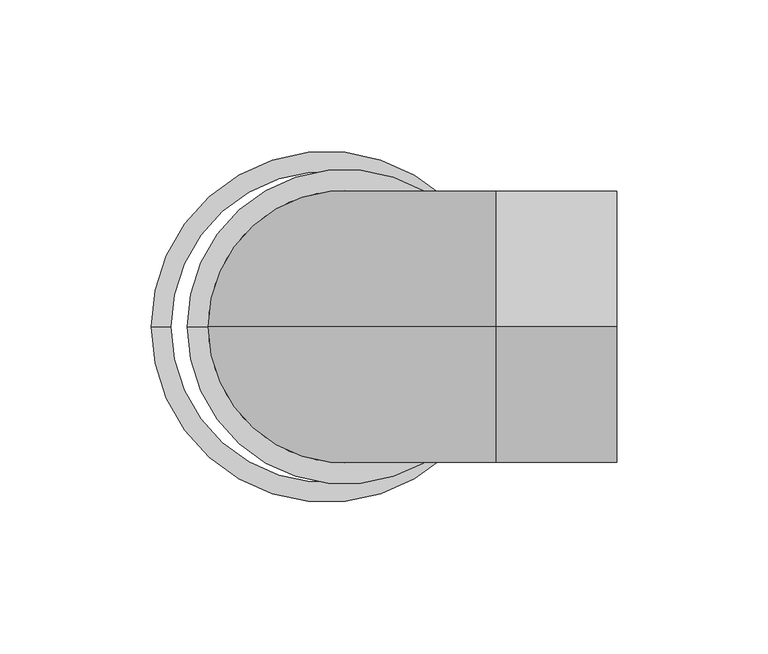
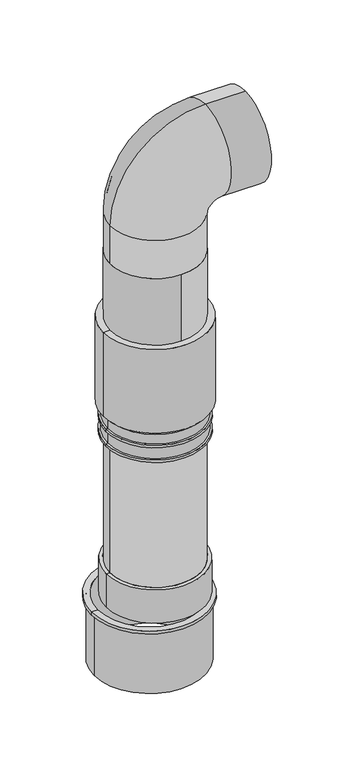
"""IFC4 building model written with IfcOpenShell, lengths in millimetres: sanitary terminal geometry, RSen_52_PIF_UN_drain set flexifon built in_wisa : drain set_wisa_flexifon built in."""

from ifc_helpers import new_model, si_unit, point, frame, origin, origin_2d, place, context, project, spatial, polyline, circle_curve, ellipse_curve, trimmed, segment, composite_curve, outline, extrude, source, transform, mapped, element, save
from ifc_brep_helpers import plane_surface, cylinder_surface, revolved_surface, advanced_brep


def sanitary_terminal_ef04253a(model_context):
    return source(origin(), model_context, "Body", "SolidModel", [
        advanced_brep(
        [(45.0, 0.0, 428.8862124), (-45.0, 0.0, 428.8862124), (43.0, 0.0, 428.8862124), (-43.0, 0.0, 428.8862124), (45.0, 0.0, 468.8862124), (-45.0, 0.0, 468.8862124), (43.0, 0.0, 468.8862124), (-43.0, 0.0, 468.8862124), (50.0, 0.0, 563.8862124), (50.0, 0.0, 473.8862124), (50.0, 0.0, 561.8862124), (50.0, 0.0, 475.8862124), (90.0, 0.0, 473.8862124), (90.0, 0.0, 563.8862124), (90.0, 0.0, 475.8862124), (90.0, 0.0, 561.8862124)],
        [
            (0, 1, circle_curve(frame((0.0, 0.0, 428.8862124), z_axis=(0.0, 0.0, -1.0), x_axis=(-1.0, 0.0, 0.0)), 45.0)),
            (1, 0, circle_curve(frame((0.0, 0.0, 428.8862124), z_axis=(0.0, 0.0, -1.0), x_axis=(-1.0, 0.0, 0.0)), 45.0)),
            (2, 3, circle_curve(frame((0.0, 0.0, 428.8862124), z_axis=(0.0, 0.0, 1.0), x_axis=(-1.0, 0.0, 0.0)), 43.0)),
            (3, 2, circle_curve(frame((0.0, 0.0, 428.8862124), z_axis=(0.0, 0.0, 1.0), x_axis=(-1.0, 0.0, 0.0)), 43.0)),
            (0, 4),
            (4, 5, circle_curve(frame((0.0, 0.0, 468.8862124), z_axis=(0.0, 0.0, -1.0), x_axis=(-1.0, 0.0, 0.0)), 45.0)),
            (5, 1),
            (5, 4, circle_curve(frame((0.0, 0.0, 468.8862124), z_axis=(0.0, 0.0, -1.0), x_axis=(-1.0, 0.0, 0.0)), 45.0)),
            (2, 6),
            (6, 7, circle_curve(frame((0.0, 0.0, 468.8862124), z_axis=(0.0, 0.0, 1.0), x_axis=(-1.0, 0.0, 0.0)), 43.0)),
            (7, 3),
            (7, 6, circle_curve(frame((0.0, 0.0, 468.8862124), z_axis=(0.0, 0.0, 1.0), x_axis=(-1.0, 0.0, 0.0)), 43.0)),
            (8, 5, circle_curve(frame((50.0, 0.0, 468.8862124), z_axis=(0.0, -1.0, 0.0), x_axis=(-1.0, 0.0, 0.0)), 95.0)),
            (4, 9, circle_curve(frame((50.0, 0.0, 468.8862124), z_axis=(0.0, 1.0, 0.0), x_axis=(-1.0, 0.0, 0.0)), 5.0)),
            (9, 8, circle_curve(frame((50.0, 0.0, 518.8862124), z_axis=(-1.0, 0.0, 0.0), x_axis=(0.0, 0.0, 1.0)), 45.0)),
            (8, 9, circle_curve(frame((50.0, 0.0, 518.8862124), z_axis=(-1.0, 0.0, 0.0), x_axis=(0.0, 0.0, 1.0)), 45.0)),
            (10, 7, circle_curve(frame((50.0, 0.0, 468.8862124), z_axis=(0.0, -1.0, 0.0), x_axis=(-1.0, 0.0, 0.0)), 93.0)),
            (6, 11, circle_curve(frame((50.0, 0.0, 468.8862124), z_axis=(0.0, 1.0, 0.0), x_axis=(-1.0, 0.0, 0.0)), 7.0)),
            (11, 10, circle_curve(frame((50.0, 0.0, 518.8862124), z_axis=(1.0, 0.0, 0.0), x_axis=(0.0, 0.0, 1.0)), 43.0)),
            (10, 11, circle_curve(frame((50.0, 0.0, 518.8862124), z_axis=(1.0, 0.0, 0.0), x_axis=(0.0, 0.0, 1.0)), 43.0)),
            (12, 13, circle_curve(frame((90.0, 0.0, 518.8862124), z_axis=(1.0, 0.0, 0.0), x_axis=(0.0, 0.0, 1.0)), 45.0)),
            (13, 12, circle_curve(frame((90.0, 0.0, 518.8862124), z_axis=(1.0, 0.0, 0.0), x_axis=(0.0, 0.0, 1.0)), 45.0)),
            (14, 15, circle_curve(frame((90.0, 0.0, 518.8862124), z_axis=(-1.0, 0.0, 0.0), x_axis=(0.0, 0.0, 1.0)), 43.0)),
            (15, 14, circle_curve(frame((90.0, 0.0, 518.8862124), z_axis=(-1.0, 0.0, 0.0), x_axis=(0.0, 0.0, 1.0)), 43.0)),
            (9, 12),
            (13, 8),
            (11, 14),
            (15, 10),
        ],
        [
            plane_surface(frame((0.0, 0.0, 428.8862124), z_axis=(0.0, 0.0, -1.0), x_axis=(0.0, -1.0, 0.0))),
            cylinder_surface(frame((0.0, 0.0, 428.8862124), z_axis=(0.0, 0.0, -1.0), x_axis=(-1.0, 0.0, 0.0)), 45.0),
            revolved_surface(polyline([(-43.0, 0.0, 468.8862124), (-43.0, 0.0, 428.8862124)]), (0.0, 0.0, 428.8862124), (0.0, 0.0, 1.0)),
            revolved_surface(trimmed(ellipse_curve(frame((0.0, 0.0, 468.8862124), z_axis=(0.0, 0.0, -1.0), x_axis=(-1.0, 0.0, 0.0)), 45.0, 45.0), [point((45.0, 0.0, 468.8862124))], [point((-45.0, 0.0, 468.8862124))], True, "CARTESIAN"), (50.0, 0.0, 468.8862124), (0.0, 1.0, 0.0)),
            revolved_surface(trimmed(ellipse_curve(frame((0.0, 0.0, 468.8862124), z_axis=(0.0, 0.0, -1.0), x_axis=(-1.0, 0.0, 0.0)), 45.0, 45.0), [point((-45.0, 0.0, 468.8862124))], [point((45.0, 0.0, 468.8862124))], True, "CARTESIAN"), (50.0, 0.0, 468.8862124), (0.0, 1.0, 0.0)),
            revolved_surface(trimmed(ellipse_curve(frame((0.0, 0.0, 468.8862124), z_axis=(0.0, 0.0, 1.0), x_axis=(-1.0, 0.0, 0.0)), 43.0, 43.0), [point((43.0, 0.0, 468.8862124))], [point((-43.0, 0.0, 468.8862124))], True, "CARTESIAN"), (50.0, 0.0, 468.8862124), (0.0, 1.0, 0.0)),
            revolved_surface(trimmed(ellipse_curve(frame((0.0, 0.0, 468.8862124), z_axis=(0.0, 0.0, 1.0), x_axis=(-1.0, 0.0, 0.0)), 43.0, 43.0), [point((-43.0, 0.0, 468.8862124))], [point((43.0, 0.0, 468.8862124))], True, "CARTESIAN"), (50.0, 0.0, 468.8862124), (0.0, 1.0, 0.0)),
            plane_surface(frame((90.0, 0.0, 518.8862124), z_axis=(1.0, 0.0, 0.0), x_axis=(0.0, -1.0, 0.0))),
            cylinder_surface(frame((50.0, 0.0, 518.8862124), z_axis=(-1.0, 0.0, 0.0), x_axis=(0.0, 0.0, 1.0)), 45.0),
            revolved_surface(polyline([(90.0, 0.0, 561.8862124), (50.0, 0.0, 561.8862124)]), (50.0, 0.0, 518.8862124), (1.0, 0.0, 0.0)),
        ],
        [
            (0, [[1, 2], [3, 4]]),
            (1, [[-1, 5, 6, 7]]),
            (1, [[-2, -7, 8, -5]]),
            (2, [[-3, 9, 10, 11]]),
            (2, [[-4, -11, 12, -9]]),
            (3, [[13, -6, 14, 15]]),
            (4, [[-14, -8, -13, 16]]),
            (5, [[17, -10, 18, 19]]),
            (6, [[-18, -12, -17, 20]]),
            (7, [[21, 22], [23, 24]]),
            (8, [[-15, 25, -22, 26]]),
            (8, [[-16, -26, -21, -25]]),
            (9, [[-19, 27, -24, 28]]),
            (9, [[-20, -28, -23, -27]]),
        ],
    ),
        extrude(outline(composite_curve([segment(trimmed(circle_curve(origin_2d(), 45.0), [point((0.0, 45.0))], [point((0.0, -45.0))], False, "CARTESIAN"), True, "CONTINUOUS"), segment(trimmed(circle_curve(origin_2d(), 45.0), [point((0.0, -45.0))], [point((0.0, 45.0))], False, "CARTESIAN"), True, "CONTINUOUS")], self_intersect=False)), frame((0.0, 0.0, 358.8862124), z_axis=(0.0, 0.0, 1.0), x_axis=(1.0, 0.0, 0.0)), (0.0, 0.0, 1.0), 70.0),
        advanced_brep(
        [(-49.5, 0.0, 240.5), (49.5, 0.0, 240.5), (49.5, 0.0, 238.0), (-49.5, 0.0, 238.0), (-47.5, 0.0, 240.5), (47.5, 0.0, 240.5), (-47.5, 0.0, 253.5), (47.5, 0.0, 253.5), (-49.5, 0.0, 253.5), (49.5, 0.0, 253.5), (-49.5, 0.0, 256.0), (49.5, 0.0, 256.0), (-47.5, 0.0, 256.0), (47.5, 0.0, 256.0), (-47.5, 0.0, 266.0), (47.5, 0.0, 266.0), (-52.0, 0.0, 270.5), (52.0, 0.0, 270.5), (-52.0, 0.0, 358.8862124), (52.0, 0.0, 358.8862124), (-44.0, 0.0, 358.8862124), (44.0, 0.0, 358.8862124), (-44.0, 0.0, 268.0), (44.0, 0.0, 268.0), (-45.0, 0.0, 268.0), (45.0, 0.0, 268.0), (-45.0, 0.0, 238.0), (45.0, 0.0, 238.0)],
        [
            (0, 1, circle_curve(frame((0.0, 0.0, 240.5), z_axis=(0.0, 0.0, -1.0), x_axis=(1.0, 0.0, 0.0)), 49.5)),
            (1, 2),
            (2, 3, circle_curve(frame((0.0, 0.0, 238.0), z_axis=(0.0, 0.0, 1.0), x_axis=(1.0, 0.0, 0.0)), 49.5)),
            (3, 0),
            (1, 0, circle_curve(frame((0.0, 0.0, 240.5), z_axis=(0.0, 0.0, -1.0), x_axis=(1.0, 0.0, 0.0)), 49.5)),
            (3, 2, circle_curve(frame((0.0, 0.0, 238.0), z_axis=(0.0, 0.0, 1.0), x_axis=(1.0, 0.0, 0.0)), 49.5)),
            (4, 5, circle_curve(frame((0.0, 0.0, 240.5), z_axis=(0.0, 0.0, -1.0), x_axis=(1.0, 0.0, 0.0)), 47.5)),
            (5, 1),
            (0, 4),
            (5, 4, circle_curve(frame((0.0, 0.0, 240.5), z_axis=(0.0, 0.0, -1.0), x_axis=(1.0, 0.0, 0.0)), 47.5)),
            (6, 7, circle_curve(frame((0.0, 0.0, 253.5), z_axis=(0.0, 0.0, -1.0), x_axis=(1.0, 0.0, 0.0)), 47.5)),
            (7, 5),
            (4, 6),
            (7, 6, circle_curve(frame((0.0, 0.0, 253.5), z_axis=(0.0, 0.0, -1.0), x_axis=(1.0, 0.0, 0.0)), 47.5)),
            (8, 9, circle_curve(frame((0.0, 0.0, 253.5), z_axis=(0.0, 0.0, -1.0), x_axis=(1.0, 0.0, 0.0)), 49.5)),
            (9, 7),
            (6, 8),
            (9, 8, circle_curve(frame((0.0, 0.0, 253.5), z_axis=(0.0, 0.0, -1.0), x_axis=(1.0, 0.0, 0.0)), 49.5)),
            (10, 11, circle_curve(frame((0.0, 0.0, 256.0), z_axis=(0.0, 0.0, -1.0), x_axis=(1.0, 0.0, 0.0)), 49.5)),
            (11, 9),
            (8, 10),
            (11, 10, circle_curve(frame((0.0, 0.0, 256.0), z_axis=(0.0, 0.0, -1.0), x_axis=(1.0, 0.0, 0.0)), 49.5)),
            (12, 13, circle_curve(frame((0.0, 0.0, 256.0), z_axis=(0.0, 0.0, -1.0), x_axis=(1.0, 0.0, 0.0)), 47.5)),
            (13, 11),
            (10, 12),
            (13, 12, circle_curve(frame((0.0, 0.0, 256.0), z_axis=(0.0, 0.0, -1.0), x_axis=(1.0, 0.0, 0.0)), 47.5)),
            (14, 15, circle_curve(frame((0.0, 0.0, 266.0), z_axis=(0.0, 0.0, -1.0), x_axis=(1.0, 0.0, 0.0)), 47.5)),
            (15, 13),
            (12, 14),
            (15, 14, circle_curve(frame((0.0, 0.0, 266.0), z_axis=(0.0, 0.0, -1.0), x_axis=(1.0, 0.0, 0.0)), 47.5)),
            (16, 17, circle_curve(frame((0.0, 0.0, 270.5), z_axis=(0.0, 0.0, -1.0), x_axis=(1.0, 0.0, 0.0)), 52.0)),
            (17, 15),
            (14, 16),
            (17, 16, circle_curve(frame((0.0, 0.0, 270.5), z_axis=(0.0, 0.0, -1.0), x_axis=(1.0, 0.0, 0.0)), 52.0)),
            (18, 19, circle_curve(frame((0.0, 0.0, 358.8862124), z_axis=(0.0, 0.0, -1.0), x_axis=(1.0, 0.0, 0.0)), 52.0)),
            (19, 17),
            (16, 18),
            (19, 18, circle_curve(frame((0.0, 0.0, 358.8862124), z_axis=(0.0, 0.0, -1.0), x_axis=(1.0, 0.0, 0.0)), 52.0)),
            (20, 21, circle_curve(frame((0.0, 0.0, 358.8862124), z_axis=(0.0, 0.0, -1.0), x_axis=(1.0, 0.0, 0.0)), 44.0)),
            (21, 19),
            (18, 20),
            (21, 20, circle_curve(frame((0.0, 0.0, 358.8862124), z_axis=(0.0, 0.0, -1.0), x_axis=(1.0, 0.0, 0.0)), 44.0)),
            (22, 23, circle_curve(frame((0.0, 0.0, 268.0), z_axis=(0.0, 0.0, -1.0), x_axis=(1.0, 0.0, 0.0)), 44.0)),
            (23, 21),
            (20, 22),
            (23, 22, circle_curve(frame((0.0, 0.0, 268.0), z_axis=(0.0, 0.0, -1.0), x_axis=(1.0, 0.0, 0.0)), 44.0)),
            (24, 25, circle_curve(frame((0.0, 0.0, 268.0), z_axis=(0.0, 0.0, -1.0), x_axis=(1.0, 0.0, 0.0)), 45.0)),
            (25, 23),
            (22, 24),
            (25, 24, circle_curve(frame((0.0, 0.0, 268.0), z_axis=(0.0, 0.0, -1.0), x_axis=(1.0, 0.0, 0.0)), 45.0)),
            (26, 27, circle_curve(frame((0.0, 0.0, 238.0), z_axis=(0.0, 0.0, -1.0), x_axis=(1.0, 0.0, 0.0)), 45.0)),
            (27, 25),
            (24, 26),
            (27, 26, circle_curve(frame((0.0, 0.0, 238.0), z_axis=(0.0, 0.0, -1.0), x_axis=(1.0, 0.0, 0.0)), 45.0)),
            (2, 27),
            (26, 3),
        ],
        [
            cylinder_surface(frame((0.0, 0.0, 238.0), z_axis=(0.0, 0.0, 1.0), x_axis=(1.0, 0.0, 0.0)), 49.5),
            plane_surface(frame((0.0, 0.0, 240.5), z_axis=(0.0, 0.0, 1.0), x_axis=(1.0, 0.0, 0.0))),
            cylinder_surface(frame((0.0, 0.0, 238.0), z_axis=(0.0, 0.0, 1.0), x_axis=(1.0, 0.0, 0.0)), 47.5),
            plane_surface(frame((0.0, 0.0, 253.5), z_axis=(0.0, 0.0, -1.0), x_axis=(1.0, 0.0, 0.0))),
            plane_surface(frame((0.0, 0.0, 256.0), z_axis=(0.0, 0.0, 1.0), x_axis=(1.0, 0.0, 0.0))),
            revolved_surface(polyline([(47.5, 0.0, 266.0), (52.0, 0.0, 270.5)]), (0.0, 0.0, 238.0), (0.0, 0.0, 1.0)),
            cylinder_surface(frame((0.0, 0.0, 238.0), z_axis=(0.0, 0.0, 1.0), x_axis=(1.0, 0.0, 0.0)), 52.0),
            plane_surface(frame((0.0, 0.0, 358.8862124), z_axis=(0.0, 0.0, 1.0), x_axis=(1.0, 0.0, 0.0))),
            revolved_surface(polyline([(44.0, 0.0, 358.8862124), (44.0, 0.0, 268.0)]), (0.0, 0.0, 238.0), (0.0, 0.0, 1.0)),
            plane_surface(frame((0.0, 0.0, 268.0), z_axis=(0.0, 0.0, -1.0), x_axis=(1.0, 0.0, 0.0))),
            revolved_surface(polyline([(45.0, 0.0, 268.0), (45.0, 0.0, 238.0)]), (0.0, 0.0, 238.0), (0.0, 0.0, 1.0)),
            plane_surface(frame((0.0, 0.0, 238.0), z_axis=(0.0, 0.0, -1.0), x_axis=(1.0, 0.0, 0.0))),
        ],
        [
            (0, [[1, 2, 3, 4]]),
            (0, [[5, -4, 6, -2]]),
            (1, [[7, 8, -1, 9]]),
            (1, [[10, -9, -5, -8]]),
            (2, [[11, 12, -7, 13]]),
            (2, [[14, -13, -10, -12]]),
            (3, [[15, 16, -11, 17]]),
            (3, [[18, -17, -14, -16]]),
            (0, [[19, 20, -15, 21]]),
            (0, [[22, -21, -18, -20]]),
            (4, [[23, 24, -19, 25]]),
            (4, [[26, -25, -22, -24]]),
            (2, [[27, 28, -23, 29]]),
            (2, [[30, -29, -26, -28]]),
            (5, [[31, 32, -27, 33]]),
            (5, [[34, -33, -30, -32]]),
            (6, [[35, 36, -31, 37]]),
            (6, [[38, -37, -34, -36]]),
            (7, [[39, 40, -35, 41]]),
            (7, [[42, -41, -38, -40]]),
            (8, [[43, 44, -39, 45]]),
            (8, [[46, -45, -42, -44]]),
            (9, [[47, 48, -43, 49]]),
            (9, [[50, -49, -46, -48]]),
            (10, [[51, 52, -47, 53]]),
            (10, [[54, -53, -50, -52]]),
            (11, [[-3, 55, -51, 56]]),
            (11, [[-6, -56, -54, -55]]),
        ],
    ),
        extrude(outline(composite_curve([segment(trimmed(circle_curve(origin_2d(), 45.0), [point((45.0, 0.0))], [point((-45.0, 0.0))], False, "CARTESIAN"), True, "CONTINUOUS"), segment(trimmed(circle_curve(origin_2d(), 45.0), [point((-45.0, 0.0))], [point((45.0, 0.0))], False, "CARTESIAN"), True, "CONTINUOUS")], self_intersect=False), holes=[composite_curve([segment(trimmed(circle_curve(origin_2d(), 41.5), [point((41.5, 0.0))], [point((-41.5, 0.0))], True, "CARTESIAN"), True, "CONTINUOUS"), segment(trimmed(circle_curve(origin_2d(), 41.5), [point((-41.5, 0.0))], [point((41.5, 0.0))], True, "CARTESIAN"), True, "CONTINUOUS")], self_intersect=False)]), frame((0.0, 0.0, 103.0), z_axis=(0.0, 0.0, 1.0), x_axis=(1.0, 0.0, 0.0)), (0.0, 0.0, 1.0), 135.0),
        advanced_brep(
        [(-45.5, 0.0, 68.0), (45.5, 0.0, 68.0), (45.5, 0.0, 103.0), (-45.5, 0.0, 103.0), (-49.0, 0.0, 68.0), (49.0, 0.0, 68.0), (-49.0, 0.0, 103.0), (49.0, 0.0, 103.0)],
        [
            (0, 1, circle_curve(frame((0.0, 0.0, 68.0), z_axis=(0.0, 0.0, -1.0), x_axis=(1.0, 0.0, 0.0)), 45.5)),
            (1, 2),
            (2, 3, circle_curve(frame((0.0, 0.0, 103.0), z_axis=(0.0, 0.0, 1.0), x_axis=(1.0, 0.0, 0.0)), 45.5)),
            (3, 0),
            (1, 0, circle_curve(frame((0.0, 0.0, 68.0), z_axis=(0.0, 0.0, -1.0), x_axis=(1.0, 0.0, 0.0)), 45.5)),
            (3, 2, circle_curve(frame((0.0, 0.0, 103.0), z_axis=(0.0, 0.0, 1.0), x_axis=(1.0, 0.0, 0.0)), 45.5)),
            (4, 5, circle_curve(frame((0.0, 0.0, 68.0), z_axis=(0.0, 0.0, -1.0), x_axis=(1.0, 0.0, 0.0)), 49.0)),
            (5, 1),
            (0, 4),
            (5, 4, circle_curve(frame((0.0, 0.0, 68.0), z_axis=(0.0, 0.0, -1.0), x_axis=(1.0, 0.0, 0.0)), 49.0)),
            (6, 7, circle_curve(frame((0.0, 0.0, 103.0), z_axis=(0.0, 0.0, -1.0), x_axis=(1.0, 0.0, 0.0)), 49.0)),
            (7, 5),
            (4, 6),
            (7, 6, circle_curve(frame((0.0, 0.0, 103.0), z_axis=(0.0, 0.0, -1.0), x_axis=(1.0, 0.0, 0.0)), 49.0)),
            (2, 7),
            (6, 3),
        ],
        [
            revolved_surface(polyline([(45.5, 0.0, 103.0), (45.5, 0.0, 68.0)]), (0.0, 0.0, 131.9791061), (0.0, 0.0, 1.0)),
            plane_surface(frame((0.0, 0.0, 68.0), z_axis=(0.0, 0.0, -1.0), x_axis=(1.0, 0.0, 0.0))),
            cylinder_surface(frame((0.0, 0.0, 131.9791061), z_axis=(0.0, 0.0, 1.0), x_axis=(1.0, 0.0, 0.0)), 49.0),
            plane_surface(frame((0.0, 0.0, 103.0), z_axis=(0.0, 0.0, 1.0), x_axis=(1.0, 0.0, 0.0))),
        ],
        [
            (0, [[1, 2, 3, 4]]),
            (0, [[5, -4, 6, -2]]),
            (1, [[7, 8, -1, 9]]),
            (1, [[10, -9, -5, -8]]),
            (2, [[11, 12, -7, 13]]),
            (2, [[14, -13, -10, -12]]),
            (3, [[-3, 15, -11, 16]]),
            (3, [[-6, -16, -14, -15]]),
        ],
    ),
        advanced_brep(
        [(-60.9, 0.0, 65.0), (49.1, 0.0, 65.0), (49.1, 0.0, 0.0), (-60.9, 0.0, 0.0), (-63.9, 0.0, 65.0), (52.1, 0.0, 65.0), (-63.9, 0.0, 68.0), (52.1, 0.0, 68.0), (-57.4, 0.0, 68.0), (45.6, 0.0, 68.0), (-57.4, 0.0, 0.0), (45.6, 0.0, 0.0)],
        [
            (0, 1, circle_curve(frame((-5.9, 0.0, 65.0), z_axis=(0.0, 0.0, -1.0), x_axis=(1.0, 0.0, 0.0)), 55.0)),
            (1, 2),
            (2, 3, circle_curve(frame((-5.9, 0.0, 0.0), z_axis=(0.0, 0.0, 1.0), x_axis=(1.0, 0.0, 0.0)), 55.0)),
            (3, 0),
            (1, 0, circle_curve(frame((-5.9, 0.0, 65.0), z_axis=(0.0, 0.0, -1.0), x_axis=(1.0, 0.0, 0.0)), 55.0)),
            (3, 2, circle_curve(frame((-5.9, 0.0, 0.0), z_axis=(0.0, 0.0, 1.0), x_axis=(1.0, 0.0, 0.0)), 55.0)),
            (4, 5, circle_curve(frame((-5.9, 0.0, 65.0), z_axis=(0.0, 0.0, -1.0), x_axis=(1.0, 0.0, 0.0)), 58.0)),
            (5, 1),
            (0, 4),
            (5, 4, circle_curve(frame((-5.9, 0.0, 65.0), z_axis=(0.0, 0.0, -1.0), x_axis=(1.0, 0.0, 0.0)), 58.0)),
            (6, 7, circle_curve(frame((-5.9, 0.0, 68.0), z_axis=(0.0, 0.0, -1.0), x_axis=(1.0, 0.0, 0.0)), 58.0)),
            (7, 5),
            (4, 6),
            (7, 6, circle_curve(frame((-5.9, 0.0, 68.0), z_axis=(0.0, 0.0, -1.0), x_axis=(1.0, 0.0, 0.0)), 58.0)),
            (8, 9, circle_curve(frame((-5.9, 0.0, 68.0), z_axis=(0.0, 0.0, -1.0), x_axis=(1.0, 0.0, 0.0)), 51.5)),
            (9, 7),
            (6, 8),
            (9, 8, circle_curve(frame((-5.9, 0.0, 68.0), z_axis=(0.0, 0.0, -1.0), x_axis=(1.0, 0.0, 0.0)), 51.5)),
            (10, 11, circle_curve(frame((-5.9, 0.0, 0.0), z_axis=(0.0, 0.0, -1.0), x_axis=(1.0, 0.0, 0.0)), 51.5)),
            (11, 9),
            (8, 10),
            (11, 10, circle_curve(frame((-5.9, 0.0, 0.0), z_axis=(0.0, 0.0, -1.0), x_axis=(1.0, 0.0, 0.0)), 51.5)),
            (2, 11),
            (10, 3),
        ],
        [
            cylinder_surface(frame((-5.9, 0.0, 0.0), z_axis=(0.0, 0.0, 1.0), x_axis=(1.0, 0.0, 0.0)), 55.0),
            plane_surface(frame((-5.9, 0.0, 65.0), z_axis=(0.0, 0.0, -1.0), x_axis=(1.0, 0.0, 0.0))),
            cylinder_surface(frame((-5.9, 0.0, 0.0), z_axis=(0.0, 0.0, 1.0), x_axis=(1.0, 0.0, 0.0)), 58.0),
            plane_surface(frame((-5.9, 0.0, 68.0), z_axis=(0.0, 0.0, 1.0), x_axis=(1.0, 0.0, 0.0))),
            revolved_surface(polyline([(45.6, 0.0, 68.0), (45.6, 0.0, 0.0)]), (-5.9, 0.0, 0.0), (0.0, 0.0, 1.0)),
            plane_surface(frame((-5.9, 0.0, 0.0), z_axis=(0.0, 0.0, -1.0), x_axis=(1.0, 0.0, 0.0))),
        ],
        [
            (0, [[1, 2, 3, 4]]),
            (0, [[5, -4, 6, -2]]),
            (1, [[7, 8, -1, 9]]),
            (1, [[10, -9, -5, -8]]),
            (2, [[11, 12, -7, 13]]),
            (2, [[14, -13, -10, -12]]),
            (3, [[15, 16, -11, 17]]),
            (3, [[18, -17, -14, -16]]),
            (4, [[19, 20, -15, 21]]),
            (4, [[22, -21, -18, -20]]),
            (5, [[-3, 23, -19, 24]]),
            (5, [[-6, -24, -22, -23]]),
        ],
    ),
    ])


if __name__ == "__main__":
    model = new_model("IFC4")
    model_context = context("Model", 3, world=origin())
    ifc_project = project(units=[si_unit("LENGTHUNIT", "METRE", prefix="MILLI")], contexts=[model_context])
    site = spatial("IfcSite", under=ifc_project)
    building = spatial("IfcBuilding", under=site)
    placement = place(None, origin())
    sanitary_terminal_shape = sanitary_terminal_ef04253a(model_context)
    element("IfcSanitaryTerminal", 1, ObjectType="RSen_52_PIF_UN_drain set flexifon built in_wisa : drain set_wisa_flexifon built in", at=placement, inside=building, context=model_context, shape_type="MappedRepresentation", body=[
        mapped(sanitary_terminal_shape, transform((0.0, 0.0, 0.0), x_axis=(1.0, 0.0, 0.0), y_axis=(0.0, 1.0, 0.0), z_axis=(0.0, 0.0, 1.0))),
    ])
    save(model, "model.ifc")
